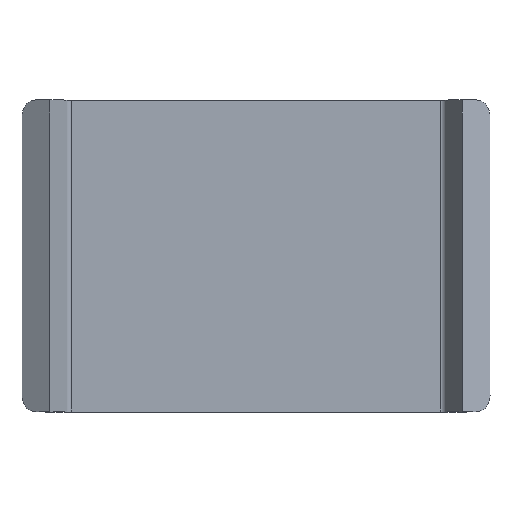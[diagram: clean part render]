
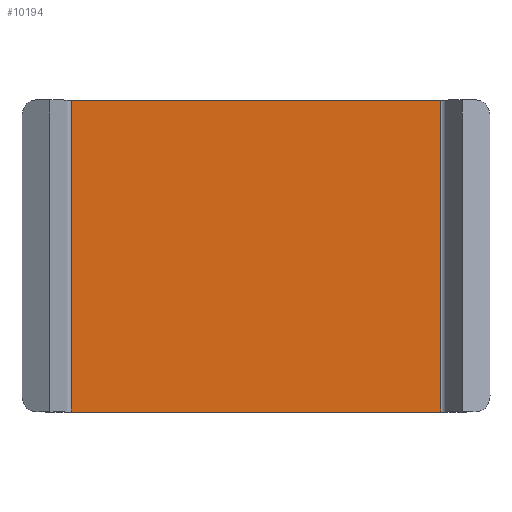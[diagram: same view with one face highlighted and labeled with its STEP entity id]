
A CAD part, top view. The second image highlights one B-rep face of the part: STEP entity #10194.
In plain terms, the highlighted planar face has unit normal (0, 0, 1).
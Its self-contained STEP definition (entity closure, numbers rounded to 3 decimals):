
#50 = ORIENTED_EDGE ( 'NONE', *, *, #5463, .F. ) ;
#147 = EDGE_CURVE ( 'NONE', #4970, #252, #9323, .T. ) ;
#178 = CARTESIAN_POINT ( 'NONE',  ( 16.573, -14.56, 0.25 ) ) ;
#252 = VERTEX_POINT ( 'NONE', #6126 ) ;
#509 = CARTESIAN_POINT ( 'NONE',  ( 0., -14., 0.25 ) ) ;
#1216 = EDGE_LOOP ( 'NONE', ( #4608, #50, #1792, #5427 ) ) ;
#1500 = CARTESIAN_POINT ( 'NONE',  ( 0., 14., 0.25 ) ) ;
#1762 = DIRECTION ( 'NONE',  ( 0., -1., 0. ) ) ;
#1792 = ORIENTED_EDGE ( 'NONE', *, *, #6595, .F. ) ;
#1932 = VECTOR ( 'NONE', #5527, 1000. ) ;
#1937 = VERTEX_POINT ( 'NONE', #9410 ) ;
#2659 = VERTEX_POINT ( 'NONE', #8401 ) ;
#3190 = CARTESIAN_POINT ( 'NONE',  ( 0., -14.56, 0.25 ) ) ;
#3886 = LINE ( 'NONE', #1500, #6852 ) ;
#4086 = FACE_OUTER_BOUND ( 'NONE', #1216, .T. ) ;
#4608 = ORIENTED_EDGE ( 'NONE', *, *, #147, .F. ) ;
#4681 = LINE ( 'NONE', #7933, #1932 ) ;
#4970 = VERTEX_POINT ( 'NONE', #7370 ) ;
#5427 = ORIENTED_EDGE ( 'NONE', *, *, #6708, .F. ) ;
#5463 = EDGE_CURVE ( 'NONE', #2659, #4970, #9892, .T. ) ;
#5527 = DIRECTION ( 'NONE',  ( 0., 1., 0. ) ) ;
#5791 = DIRECTION ( 'NONE',  ( 0., 0., -1. ) ) ;
#6126 = CARTESIAN_POINT ( 'NONE',  ( -16.573, -14., 0.25 ) ) ;
#6595 = EDGE_CURVE ( 'NONE', #1937, #2659, #3886, .T. ) ;
#6708 = EDGE_CURVE ( 'NONE', #252, #1937, #4681, .T. ) ;
#6852 = VECTOR ( 'NONE', #9469, 1000. ) ;
#7004 = AXIS2_PLACEMENT_3D ( 'NONE', #3190, #5791, #8985 ) ;
#7253 = VECTOR ( 'NONE', #7939, 1000. ) ;
#7338 = PLANE ( 'NONE',  #7004 ) ;
#7370 = CARTESIAN_POINT ( 'NONE',  ( 16.573, -14., 0.25 ) ) ;
#7933 = CARTESIAN_POINT ( 'NONE',  ( -16.573, -14.56, 0.25 ) ) ;
#7939 = DIRECTION ( 'NONE',  ( -1., 0., 0. ) ) ;
#8173 = VECTOR ( 'NONE', #1762, 1000. ) ;
#8401 = CARTESIAN_POINT ( 'NONE',  ( 16.573, 14., 0.25 ) ) ;
#8985 = DIRECTION ( 'NONE',  ( -1., 0., 0. ) ) ;
#9323 = LINE ( 'NONE', #509, #7253 ) ;
#9410 = CARTESIAN_POINT ( 'NONE',  ( -16.573, 14., 0.25 ) ) ;
#9469 = DIRECTION ( 'NONE',  ( 1., 0., 0. ) ) ;
#9892 = LINE ( 'NONE', #178, #8173 ) ;
#10194 = ADVANCED_FACE ( 'NONE', ( #4086 ), #7338, .F. ) ;
